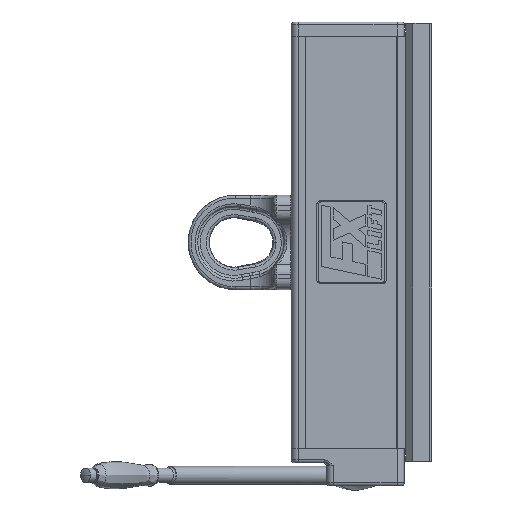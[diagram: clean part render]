
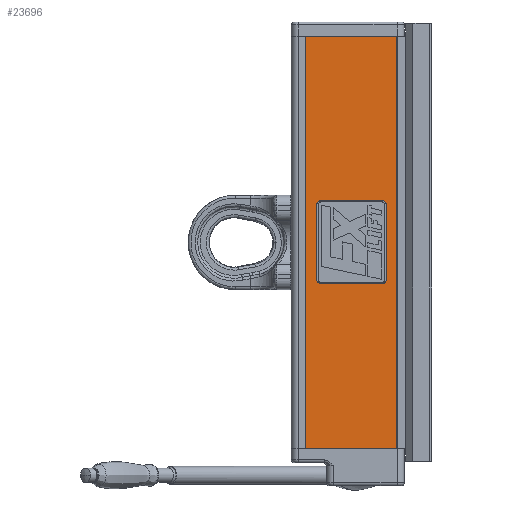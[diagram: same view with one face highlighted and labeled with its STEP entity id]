
A CAD part, left-side view. The second image highlights one B-rep face of the part: STEP entity #23696.
In plain terms, the highlighted planar face has unit normal (-1, 0, 0).
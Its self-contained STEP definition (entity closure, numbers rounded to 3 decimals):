
#79 = EDGE_CURVE ( 'NONE', #34213, #23110, #31369, .T. ) ;
#439 = EDGE_CURVE ( 'NONE', #23551, #13703, #14985, .T. ) ;
#815 = ORIENTED_EDGE ( 'NONE', *, *, #35038, .F. ) ;
#2140 = LINE ( 'NONE', #4253, #34888 ) ;
#2248 = CARTESIAN_POINT ( 'NONE',  ( -112.5, -43.864, 52.076 ) ) ;
#2765 = ORIENTED_EDGE ( 'NONE', *, *, #6253, .T. ) ;
#3218 = B_SPLINE_CURVE_WITH_KNOTS ( 'NONE', 3,
 ( #31334, #10377, #16429, #37365 ),
 .UNSPECIFIED., .F., .F.,
 ( 4, 4 ),
 ( 0.556, 0.667 ),
 .UNSPECIFIED. ) ;
#4253 = CARTESIAN_POINT ( 'NONE',  ( -112.5, 0., -58.033 ) ) ;
#4667 = LINE ( 'NONE', #38506, #28547 ) ;
#4745 = CARTESIAN_POINT ( 'NONE',  ( -112.5, 53.291, 55.638 ) ) ;
#5097 = CARTESIAN_POINT ( 'NONE',  ( -112.5, -43.864, 0. ) ) ;
#5401 = CARTESIAN_POINT ( 'NONE',  ( -112.5, 50.376, -58.033 ) ) ;
#5722 = VERTEX_POINT ( 'NONE', #22611 ) ;
#5849 = VERTEX_POINT ( 'NONE', #17113 ) ;
#6253 = EDGE_CURVE ( 'NONE', #5722, #30427, #4667, .T. ) ;
#6378 = PLANE ( 'NONE',  #13640 ) ;
#7160 = DIRECTION ( 'NONE',  ( 0., 0., 1. ) ) ;
#7387 = CARTESIAN_POINT ( 'NONE',  ( -112.5, -43.864, -51.556 ) ) ;
#7910 = VERTEX_POINT ( 'NONE', #11408 ) ;
#7941 = VECTOR ( 'NONE', #7160, 1000. ) ;
#9649 = CARTESIAN_POINT ( 'NONE',  ( -112.5, -59.5, 288. ) ) ;
#10043 = EDGE_CURVE ( 'NONE', #7910, #20157, #16664, .T. ) ;
#10363 = EDGE_LOOP ( 'NONE', ( #36626, #815, #30529, #37153 ) ) ;
#10377 = CARTESIAN_POINT ( 'NONE',  ( -112.5, -43.864, -55.119 ) ) ;
#10393 = LINE ( 'NONE', #29851, #12290 ) ;
#11265 = CARTESIAN_POINT ( 'NONE',  ( -112.5, -59.5, 288. ) ) ;
#11408 = CARTESIAN_POINT ( 'NONE',  ( -112.5, -43.864, 52.076 ) ) ;
#11615 = FACE_BOUND ( 'NONE', #19636, .T. ) ;
#11894 = DIRECTION ( 'NONE',  ( 0., -1., 0. ) ) ;
#12290 = VECTOR ( 'NONE', #11894, 1000. ) ;
#12581 = B_SPLINE_CURVE_WITH_KNOTS ( 'NONE', 3,
 ( #25656, #4745, #31690, #13759 ),
 .UNSPECIFIED., .F., .F.,
 ( 4, 4 ),
 ( 0.111, 0.222 ),
 .UNSPECIFIED. ) ;
#13330 = ORIENTED_EDGE ( 'NONE', *, *, #24564, .T. ) ;
#13640 = AXIS2_PLACEMENT_3D ( 'NONE', #24271, #15399, #36346 ) ;
#13703 = VERTEX_POINT ( 'NONE', #31030 ) ;
#13759 = CARTESIAN_POINT ( 'NONE',  ( -112.5, 46.814, 58.553 ) ) ;
#14653 = CARTESIAN_POINT ( 'NONE',  ( -112.5, 69., 288. ) ) ;
#14724 = EDGE_CURVE ( 'NONE', #23110, #14798, #25349, .T. ) ;
#14798 = VERTEX_POINT ( 'NONE', #37243 ) ;
#14883 = CARTESIAN_POINT ( 'NONE',  ( -112.5, 53.291, -51.556 ) ) ;
#14985 = LINE ( 'NONE', #25062, #7941 ) ;
#15399 = DIRECTION ( 'NONE',  ( 1., 0., 0. ) ) ;
#15928 = EDGE_CURVE ( 'NONE', #5849, #18780, #2140, .T. ) ;
#16308 = ORIENTED_EDGE ( 'NONE', *, *, #22727, .T. ) ;
#16429 = CARTESIAN_POINT ( 'NONE',  ( -112.5, -40.949, -58.033 ) ) ;
#16664 = LINE ( 'NONE', #5097, #31630 ) ;
#17113 = CARTESIAN_POINT ( 'NONE',  ( -112.5, -37.387, -58.033 ) ) ;
#17433 = CARTESIAN_POINT ( 'NONE',  ( -112.5, 53.291, -51.556 ) ) ;
#17916 = VERTEX_POINT ( 'NONE', #11265 ) ;
#18409 = CARTESIAN_POINT ( 'NONE',  ( -112.5, 0., -288. ) ) ;
#18550 = EDGE_CURVE ( 'NONE', #34213, #17916, #10393, .T. ) ;
#18780 = VERTEX_POINT ( 'NONE', #25199 ) ;
#19125 = CARTESIAN_POINT ( 'NONE',  ( -112.5, 69., -288. ) ) ;
#19636 = EDGE_LOOP ( 'NONE', ( #31427, #20280, #16308, #2765, #13330, #30302, #24541, #28591 ) ) ;
#20154 = CARTESIAN_POINT ( 'NONE',  ( -112.5, -43.864, 55.638 ) ) ;
#20157 = VERTEX_POINT ( 'NONE', #7387 ) ;
#20280 = ORIENTED_EDGE ( 'NONE', *, *, #439, .T. ) ;
#20589 = DIRECTION ( 'NONE',  ( 0., -1., 0. ) ) ;
#22611 = CARTESIAN_POINT ( 'NONE',  ( -112.5, 46.814, 58.553 ) ) ;
#22727 = EDGE_CURVE ( 'NONE', #13703, #5722, #12581, .T. ) ;
#22903 = EDGE_CURVE ( 'NONE', #18780, #23551, #32158, .T. ) ;
#23023 = CARTESIAN_POINT ( 'NONE',  ( -112.5, -37.387, 58.553 ) ) ;
#23110 = VERTEX_POINT ( 'NONE', #19125 ) ;
#23327 = CARTESIAN_POINT ( 'NONE',  ( -112.5, -37.387, 58.553 ) ) ;
#23551 = VERTEX_POINT ( 'NONE', #14883 ) ;
#23696 = ADVANCED_FACE ( 'NONE', ( #34551, #11615 ), #6378, .F. ) ;
#24271 = CARTESIAN_POINT ( 'NONE',  ( -112.5, 0., 288. ) ) ;
#24342 = VECTOR ( 'NONE', #35584, 1000. ) ;
#24541 = ORIENTED_EDGE ( 'NONE', *, *, #34422, .T. ) ;
#24564 = EDGE_CURVE ( 'NONE', #30427, #7910, #28813, .T. ) ;
#25062 = CARTESIAN_POINT ( 'NONE',  ( -112.5, 53.291, 0. ) ) ;
#25199 = CARTESIAN_POINT ( 'NONE',  ( -112.5, 46.814, -58.033 ) ) ;
#25349 = LINE ( 'NONE', #18409, #32392 ) ;
#25656 = CARTESIAN_POINT ( 'NONE',  ( -112.5, 53.291, 52.076 ) ) ;
#28197 = DIRECTION ( 'NONE',  ( 0., 1., 0. ) ) ;
#28547 = VECTOR ( 'NONE', #20589, 1000. ) ;
#28591 = ORIENTED_EDGE ( 'NONE', *, *, #15928, .T. ) ;
#28813 = B_SPLINE_CURVE_WITH_KNOTS ( 'NONE', 3,
 ( #23023, #35056, #20154, #2248 ),
 .UNSPECIFIED., .F., .F.,
 ( 4, 4 ),
 ( 0.333, 0.444 ),
 .UNSPECIFIED. ) ;
#28842 = LINE ( 'NONE', #9649, #29784 ) ;
#29339 = CARTESIAN_POINT ( 'NONE',  ( -112.5, 46.814, -58.033 ) ) ;
#29784 = VECTOR ( 'NONE', #30616, 1000. ) ;
#29851 = CARTESIAN_POINT ( 'NONE',  ( -112.5, 0., 288. ) ) ;
#30302 = ORIENTED_EDGE ( 'NONE', *, *, #10043, .T. ) ;
#30427 = VERTEX_POINT ( 'NONE', #23327 ) ;
#30529 = ORIENTED_EDGE ( 'NONE', *, *, #18550, .F. ) ;
#30616 = DIRECTION ( 'NONE',  ( 0., 0., -1. ) ) ;
#31030 = CARTESIAN_POINT ( 'NONE',  ( -112.5, 53.291, 52.076 ) ) ;
#31334 = CARTESIAN_POINT ( 'NONE',  ( -112.5, -43.864, -51.556 ) ) ;
#31369 = LINE ( 'NONE', #14653, #24342 ) ;
#31427 = ORIENTED_EDGE ( 'NONE', *, *, #22903, .T. ) ;
#31630 = VECTOR ( 'NONE', #37811, 1000. ) ;
#31690 = CARTESIAN_POINT ( 'NONE',  ( -112.5, 50.376, 58.553 ) ) ;
#32158 = B_SPLINE_CURVE_WITH_KNOTS ( 'NONE', 3,
 ( #29339, #5401, #35351, #17433 ),
 .UNSPECIFIED., .F., .F.,
 ( 4, 4 ),
 ( 0.778, 1. ),
 .UNSPECIFIED. ) ;
#32392 = VECTOR ( 'NONE', #36350, 1000. ) ;
#34213 = VERTEX_POINT ( 'NONE', #38569 ) ;
#34422 = EDGE_CURVE ( 'NONE', #20157, #5849, #3218, .T. ) ;
#34551 = FACE_OUTER_BOUND ( 'NONE', #10363, .T. ) ;
#34888 = VECTOR ( 'NONE', #28197, 1000. ) ;
#35038 = EDGE_CURVE ( 'NONE', #17916, #14798, #28842, .T. ) ;
#35056 = CARTESIAN_POINT ( 'NONE',  ( -112.5, -40.949, 58.553 ) ) ;
#35351 = CARTESIAN_POINT ( 'NONE',  ( -112.5, 53.291, -55.119 ) ) ;
#35584 = DIRECTION ( 'NONE',  ( 0., 0., -1. ) ) ;
#36346 = DIRECTION ( 'NONE',  ( 0., 1., 0. ) ) ;
#36350 = DIRECTION ( 'NONE',  ( 0., -1., 0. ) ) ;
#36626 = ORIENTED_EDGE ( 'NONE', *, *, #14724, .T. ) ;
#37153 = ORIENTED_EDGE ( 'NONE', *, *, #79, .T. ) ;
#37243 = CARTESIAN_POINT ( 'NONE',  ( -112.5, -59.5, -288. ) ) ;
#37365 = CARTESIAN_POINT ( 'NONE',  ( -112.5, -37.387, -58.033 ) ) ;
#37811 = DIRECTION ( 'NONE',  ( 0., 0., -1. ) ) ;
#38506 = CARTESIAN_POINT ( 'NONE',  ( -112.5, 0., 58.553 ) ) ;
#38569 = CARTESIAN_POINT ( 'NONE',  ( -112.5, 69., 288. ) ) ;
